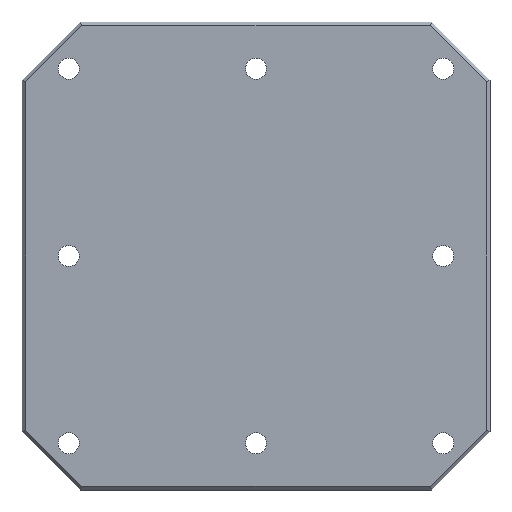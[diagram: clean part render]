
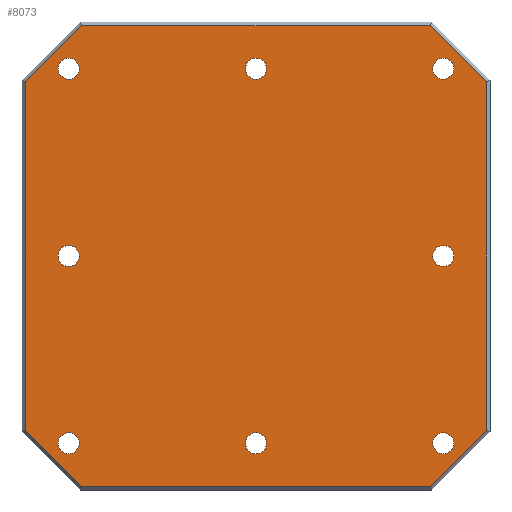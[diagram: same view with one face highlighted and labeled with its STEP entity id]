
A CAD part, front view. The second image highlights one B-rep face of the part: STEP entity #8073.
In plain terms, the highlighted planar face has unit normal (0, -1, 0).
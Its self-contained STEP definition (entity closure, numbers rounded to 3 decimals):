
#1829=CARTESIAN_POINT('',(-160.,-30.,0.));
#1830=DIRECTION('',(0.,1.,0.));
#1831=DIRECTION('',(1.,0.,0.));
#1832=AXIS2_PLACEMENT_3D('',#1829,#1830,#1831);
#1834=CARTESIAN_POINT('',(-160.,-30.,0.));
#1835=DIRECTION('',(0.,1.,0.));
#1836=DIRECTION('',(-1.,0.,0.));
#1837=AXIS2_PLACEMENT_3D('',#1834,#1835,#1836);
#1839=CARTESIAN_POINT('',(160.,-30.,0.));
#1840=DIRECTION('',(0.,1.,0.));
#1841=DIRECTION('',(1.,0.,0.));
#1842=AXIS2_PLACEMENT_3D('',#1839,#1840,#1841);
#1844=CARTESIAN_POINT('',(160.,-30.,0.));
#1845=DIRECTION('',(0.,1.,0.));
#1846=DIRECTION('',(-1.,0.,0.));
#1847=AXIS2_PLACEMENT_3D('',#1844,#1845,#1846);
#1849=CARTESIAN_POINT('',(-160.,-30.,-160.));
#1850=DIRECTION('',(0.,-1.,0.));
#1851=DIRECTION('',(1.,0.,0.));
#1852=AXIS2_PLACEMENT_3D('',#1849,#1850,#1851);
#1854=CARTESIAN_POINT('',(-160.,-30.,-160.));
#1855=DIRECTION('',(0.,-1.,0.));
#1856=DIRECTION('',(-1.,0.,0.));
#1857=AXIS2_PLACEMENT_3D('',#1854,#1855,#1856);
#1859=CARTESIAN_POINT('',(0.,-30.,-160.));
#1860=DIRECTION('',(0.,-1.,0.));
#1861=DIRECTION('',(1.,0.,0.));
#1862=AXIS2_PLACEMENT_3D('',#1859,#1860,#1861);
#1864=CARTESIAN_POINT('',(0.,-30.,-160.));
#1865=DIRECTION('',(0.,-1.,0.));
#1866=DIRECTION('',(-1.,0.,0.));
#1867=AXIS2_PLACEMENT_3D('',#1864,#1865,#1866);
#1869=CARTESIAN_POINT('',(160.,-30.,-160.));
#1870=DIRECTION('',(0.,-1.,0.));
#1871=DIRECTION('',(1.,0.,0.));
#1872=AXIS2_PLACEMENT_3D('',#1869,#1870,#1871);
#1874=CARTESIAN_POINT('',(160.,-30.,-160.));
#1875=DIRECTION('',(0.,-1.,0.));
#1876=DIRECTION('',(-1.,0.,0.));
#1877=AXIS2_PLACEMENT_3D('',#1874,#1875,#1876);
#1879=CARTESIAN_POINT('',(-160.,-30.,160.));
#1880=DIRECTION('',(0.,1.,0.));
#1881=DIRECTION('',(1.,0.,0.));
#1882=AXIS2_PLACEMENT_3D('',#1879,#1880,#1881);
#1884=CARTESIAN_POINT('',(-160.,-30.,160.));
#1885=DIRECTION('',(0.,1.,0.));
#1886=DIRECTION('',(-1.,0.,0.));
#1887=AXIS2_PLACEMENT_3D('',#1884,#1885,#1886);
#1889=CARTESIAN_POINT('',(0.,-30.,160.));
#1890=DIRECTION('',(0.,1.,0.));
#1891=DIRECTION('',(1.,0.,0.));
#1892=AXIS2_PLACEMENT_3D('',#1889,#1890,#1891);
#1894=CARTESIAN_POINT('',(0.,-30.,160.));
#1895=DIRECTION('',(0.,1.,0.));
#1896=DIRECTION('',(-1.,0.,0.));
#1897=AXIS2_PLACEMENT_3D('',#1894,#1895,#1896);
#1899=CARTESIAN_POINT('',(160.,-30.,160.));
#1900=DIRECTION('',(0.,1.,0.));
#1901=DIRECTION('',(1.,0.,0.));
#1902=AXIS2_PLACEMENT_3D('',#1899,#1900,#1901);
#1904=CARTESIAN_POINT('',(160.,-30.,160.));
#1905=DIRECTION('',(0.,1.,0.));
#1906=DIRECTION('',(-1.,0.,0.));
#1907=AXIS2_PLACEMENT_3D('',#1904,#1905,#1906);
#1909=DIRECTION('',(0.,0.,-1.));
#1910=VECTOR('',#1909,297.515);
#1911=CARTESIAN_POINT('',(-197.,-30.,148.757));
#1912=LINE('',#1911,#1910);
#1913=DIRECTION('',(-0.707,0.,-0.707));
#1914=VECTOR('',#1913,68.225);
#1915=CARTESIAN_POINT('',(-148.757,-30.,197.));
#1916=LINE('',#1915,#1914);
#1917=DIRECTION('',(-1.,0.,0.));
#1918=VECTOR('',#1917,297.515);
#1919=CARTESIAN_POINT('',(148.757,-30.,197.));
#1920=LINE('',#1919,#1918);
#1921=DIRECTION('',(-0.707,0.,0.707));
#1922=VECTOR('',#1921,68.225);
#1923=CARTESIAN_POINT('',(197.,-30.,148.757));
#1924=LINE('',#1923,#1922);
#1925=DIRECTION('',(0.,0.,1.));
#1926=VECTOR('',#1925,297.515);
#1927=CARTESIAN_POINT('',(197.,-30.,-148.757));
#1928=LINE('',#1927,#1926);
#1929=DIRECTION('',(0.707,0.,0.707));
#1930=VECTOR('',#1929,68.225);
#1931=CARTESIAN_POINT('',(148.757,-30.,-197.));
#1932=LINE('',#1931,#1930);
#1933=DIRECTION('',(1.,0.,0.));
#1934=VECTOR('',#1933,297.515);
#1935=CARTESIAN_POINT('',(-148.757,-30.,-197.));
#1936=LINE('',#1935,#1934);
#1937=DIRECTION('',(0.707,0.,-0.707));
#1938=VECTOR('',#1937,68.225);
#1939=CARTESIAN_POINT('',(-197.,-30.,-148.757));
#1940=LINE('',#1939,#1938);
#5181=CARTESIAN_POINT('',(169.,-30.,160.));
#5182=CARTESIAN_POINT('',(151.,-30.,160.));
#5183=VERTEX_POINT('',#5181);
#5184=VERTEX_POINT('',#5182);
#5205=CARTESIAN_POINT('',(9.,-30.,160.));
#5206=CARTESIAN_POINT('',(-9.,-30.,160.));
#5207=VERTEX_POINT('',#5205);
#5208=VERTEX_POINT('',#5206);
#5237=CARTESIAN_POINT('',(-151.,-30.,160.));
#5238=CARTESIAN_POINT('',(-169.,-30.,160.));
#5239=VERTEX_POINT('',#5237);
#5240=VERTEX_POINT('',#5238);
#5269=CARTESIAN_POINT('',(169.,-30.,-160.));
#5270=VERTEX_POINT('',#5269);
#5273=CARTESIAN_POINT('',(151.,-30.,-160.));
#5274=VERTEX_POINT('',#5273);
#5285=CARTESIAN_POINT('',(9.,-30.,-160.));
#5286=VERTEX_POINT('',#5285);
#5289=CARTESIAN_POINT('',(-9.,-30.,-160.));
#5290=VERTEX_POINT('',#5289);
#5301=CARTESIAN_POINT('',(-151.,-30.,-160.));
#5302=VERTEX_POINT('',#5301);
#5305=CARTESIAN_POINT('',(-169.,-30.,-160.));
#5306=VERTEX_POINT('',#5305);
#5365=CARTESIAN_POINT('',(169.,-30.,0.));
#5366=VERTEX_POINT('',#5365);
#5367=CARTESIAN_POINT('',(151.,-30.,0.));
#5368=VERTEX_POINT('',#5367);
#5373=CARTESIAN_POINT('',(-151.,-30.,0.));
#5374=VERTEX_POINT('',#5373);
#5375=CARTESIAN_POINT('',(-169.,-30.,0.));
#5376=VERTEX_POINT('',#5375);
#5447=CARTESIAN_POINT('',(-197.,-30.,148.757));
#5448=CARTESIAN_POINT('',(-197.,-30.,-148.757));
#5449=VERTEX_POINT('',#5447);
#5450=VERTEX_POINT('',#5448);
#5453=CARTESIAN_POINT('',(-148.757,-30.,197.));
#5454=VERTEX_POINT('',#5453);
#5457=CARTESIAN_POINT('',(148.757,-30.,197.));
#5458=VERTEX_POINT('',#5457);
#5459=CARTESIAN_POINT('',(197.,-30.,148.757));
#5460=VERTEX_POINT('',#5459);
#5465=CARTESIAN_POINT('',(197.,-30.,-148.757));
#5466=VERTEX_POINT('',#5465);
#5467=CARTESIAN_POINT('',(148.757,-30.,-197.));
#5468=VERTEX_POINT('',#5467);
#5473=CARTESIAN_POINT('',(-148.757,-30.,-197.));
#5474=VERTEX_POINT('',#5473);
#8004=CARTESIAN_POINT('',(0.,-30.,0.));
#8005=DIRECTION('',(0.,1.,0.));
#8006=DIRECTION('',(1.,0.,0.));
#8007=AXIS2_PLACEMENT_3D('',#8004,#8005,#8006);
#8008=PLANE('',#8007);
#8010=ORIENTED_EDGE('',*,*,#8009,.F.);
#8012=ORIENTED_EDGE('',*,*,#8011,.F.);
#8014=ORIENTED_EDGE('',*,*,#8013,.F.);
#8016=ORIENTED_EDGE('',*,*,#8015,.F.);
#8018=ORIENTED_EDGE('',*,*,#8017,.F.);
#8020=ORIENTED_EDGE('',*,*,#8019,.F.);
#8022=ORIENTED_EDGE('',*,*,#8021,.F.);
#8024=ORIENTED_EDGE('',*,*,#8023,.F.);
#8025=EDGE_LOOP('',(#8010,#8012,#8014,#8016,#8018,#8020,#8022,#8024));
#8026=FACE_OUTER_BOUND('',#8025,.F.);
#8028=ORIENTED_EDGE('',*,*,#8027,.F.);
#8030=ORIENTED_EDGE('',*,*,#8029,.F.);
#8031=EDGE_LOOP('',(#8028,#8030));
#8032=FACE_BOUND('',#8031,.F.);
#8034=ORIENTED_EDGE('',*,*,#8033,.T.);
#8036=ORIENTED_EDGE('',*,*,#8035,.T.);
#8037=EDGE_LOOP('',(#8034,#8036));
#8038=FACE_BOUND('',#8037,.F.);
#8039=ORIENTED_EDGE('',*,*,#7999,.T.);
#8040=ORIENTED_EDGE('',*,*,#7983,.T.);
#8041=EDGE_LOOP('',(#8039,#8040));
#8042=FACE_BOUND('',#8041,.F.);
#8044=ORIENTED_EDGE('',*,*,#8043,.T.);
#8046=ORIENTED_EDGE('',*,*,#8045,.T.);
#8047=EDGE_LOOP('',(#8044,#8046));
#8048=FACE_BOUND('',#8047,.F.);
#8050=ORIENTED_EDGE('',*,*,#8049,.F.);
#8052=ORIENTED_EDGE('',*,*,#8051,.F.);
#8053=EDGE_LOOP('',(#8050,#8052));
#8054=FACE_BOUND('',#8053,.F.);
#8056=ORIENTED_EDGE('',*,*,#8055,.F.);
#8058=ORIENTED_EDGE('',*,*,#8057,.F.);
#8059=EDGE_LOOP('',(#8056,#8058));
#8060=FACE_BOUND('',#8059,.F.);
#8062=ORIENTED_EDGE('',*,*,#8061,.F.);
#8064=ORIENTED_EDGE('',*,*,#8063,.F.);
#8065=EDGE_LOOP('',(#8062,#8064));
#8066=FACE_BOUND('',#8065,.F.);
#8068=ORIENTED_EDGE('',*,*,#8067,.F.);
#8070=ORIENTED_EDGE('',*,*,#8069,.F.);
#8071=EDGE_LOOP('',(#8068,#8070));
#8072=FACE_BOUND('',#8071,.F.);
#8073=ADVANCED_FACE('',(#8026,#8032,#8038,#8042,#8048,#8054,#8060,#8066,#8072),
#8008,.F.);
#1833=CIRCLE('',#1832,9.);
#1838=CIRCLE('',#1837,9.);
#1843=CIRCLE('',#1842,9.);
#1848=CIRCLE('',#1847,9.);
#1853=CIRCLE('',#1852,9.);
#1858=CIRCLE('',#1857,9.);
#1863=CIRCLE('',#1862,9.);
#1868=CIRCLE('',#1867,9.);
#1873=CIRCLE('',#1872,9.);
#1878=CIRCLE('',#1877,9.);
#1883=CIRCLE('',#1882,9.);
#1888=CIRCLE('',#1887,9.);
#1893=CIRCLE('',#1892,9.);
#1898=CIRCLE('',#1897,9.);
#1903=CIRCLE('',#1902,9.);
#1908=CIRCLE('',#1907,9.);
#7983=EDGE_CURVE('',#5290,#5286,#1868,.T.);
#7999=EDGE_CURVE('',#5286,#5290,#1863,.T.);
#8009=EDGE_CURVE('',#5449,#5450,#1912,.T.);
#8011=EDGE_CURVE('',#5454,#5449,#1916,.T.);
#8013=EDGE_CURVE('',#5458,#5454,#1920,.T.);
#8015=EDGE_CURVE('',#5460,#5458,#1924,.T.);
#8017=EDGE_CURVE('',#5466,#5460,#1928,.T.);
#8019=EDGE_CURVE('',#5468,#5466,#1932,.T.);
#8021=EDGE_CURVE('',#5474,#5468,#1936,.T.);
#8023=EDGE_CURVE('',#5450,#5474,#1940,.T.);
#8027=EDGE_CURVE('',#5366,#5368,#1843,.T.);
#8029=EDGE_CURVE('',#5368,#5366,#1848,.T.);
#8033=EDGE_CURVE('',#5302,#5306,#1853,.T.);
#8035=EDGE_CURVE('',#5306,#5302,#1858,.T.);
#8043=EDGE_CURVE('',#5270,#5274,#1873,.T.);
#8045=EDGE_CURVE('',#5274,#5270,#1878,.T.);
#8049=EDGE_CURVE('',#5239,#5240,#1883,.T.);
#8051=EDGE_CURVE('',#5240,#5239,#1888,.T.);
#8055=EDGE_CURVE('',#5207,#5208,#1893,.T.);
#8057=EDGE_CURVE('',#5208,#5207,#1898,.T.);
#8061=EDGE_CURVE('',#5183,#5184,#1903,.T.);
#8063=EDGE_CURVE('',#5184,#5183,#1908,.T.);
#8067=EDGE_CURVE('',#5374,#5376,#1833,.T.);
#8069=EDGE_CURVE('',#5376,#5374,#1838,.T.);
